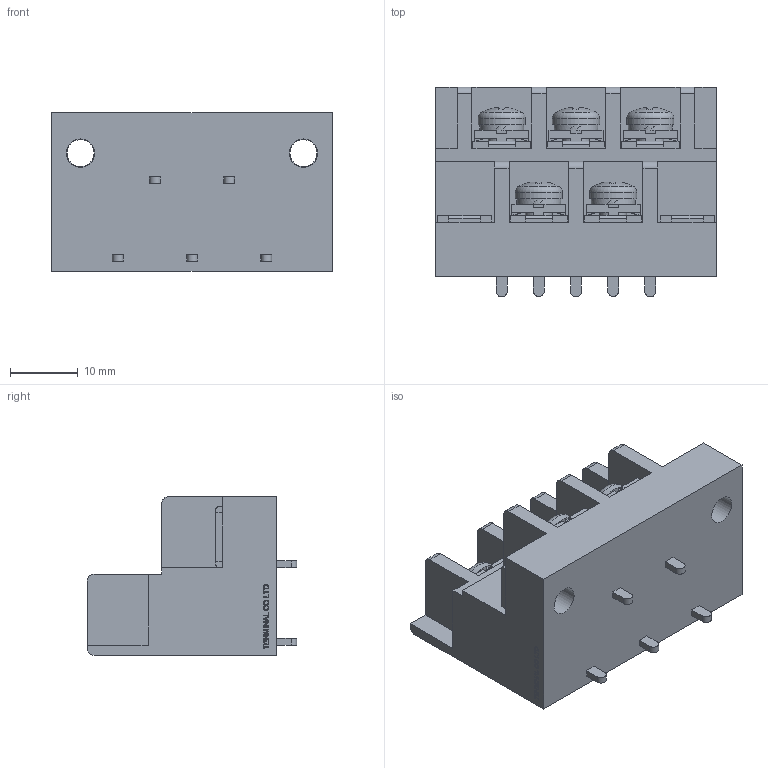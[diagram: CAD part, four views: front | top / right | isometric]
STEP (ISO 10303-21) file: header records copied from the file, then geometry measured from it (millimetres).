
FILE_DESCRIPTION(/* description */ ('Alibre Inc.'),/* implementation_level */ '2;1');
FILE_NAME(/* name */ 'export0',/* time_stamp */ '2016-08-05T14:00:07+09:00',/* author */ (''),/* organization */ (''),/* preprocessor_version */ 'ST-DEVELOPER v14',/* originating_system */ 'Alibre',/* authorisation */ '');
FILE_SCHEMA (('CONFIG_CONTROL_DESIGN'));
Length unit declared in the file: centimetre
Products named in the file (1): ID_1
Bounding box: 41.5 x 31 x 23.5 mm (x, y, z)
Volume: 16772.6 mm3; surface area: 8083.7 mm2
Topology: 1 solids, 62 shells, 1421 faces, 3720 edges, 2459 vertices
Faces by surface type: plane 1081, bspline 254, cylinder 51, cone 20, torus 10, sphere 5
Full cylindrical faces by diameter (mm): 4 x7, 4.2 x2, 7 x5
Entity records: 41706 total; most frequent: CARTESIAN_POINT 9853, ORIENTED_EDGE 7418, DIRECTION 4497, EDGE_CURVE 3689, VECTOR 2815, LINE 2815, VERTEX_POINT 2452, EDGE_LOOP 1537
